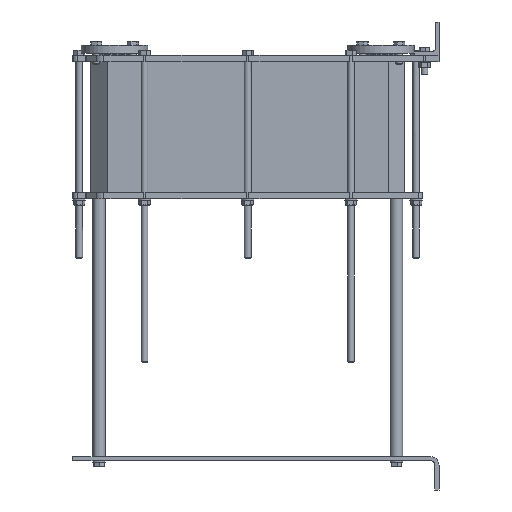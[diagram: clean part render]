
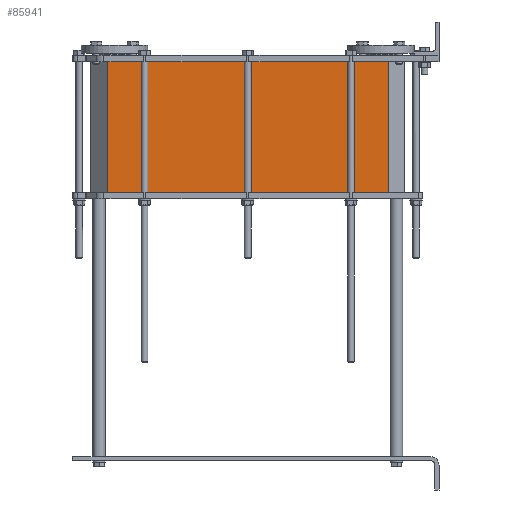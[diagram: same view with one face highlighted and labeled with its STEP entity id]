
A CAD part, left-side view. The second image highlights one B-rep face of the part: STEP entity #85941.
In plain terms, the highlighted planar face has unit normal (-1, 0, 0).
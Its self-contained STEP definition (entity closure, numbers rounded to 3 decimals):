
#626 = FACE_OUTER_BOUND ( 'NONE', #78978, .T. ) ;
#5755 = CARTESIAN_POINT ( 'NONE',  ( 22., 798., -95. ) ) ;
#9335 = PLANE ( 'NONE',  #28155 ) ;
#13561 = EDGE_CURVE ( 'NONE', #49392, #32783, #57604, .T. ) ;
#16719 = VERTEX_POINT ( 'NONE', #84140 ) ;
#20756 = VECTOR ( 'NONE', #23562, 1000. ) ;
#23562 = DIRECTION ( 'NONE',  ( 0., 1., 0. ) ) ;
#24333 = DIRECTION ( 'NONE',  ( -1., 0., 0. ) ) ;
#25340 = LINE ( 'NONE', #38849, #20756 ) ;
#28155 = AXIS2_PLACEMENT_3D ( 'NONE', #75684, #24333, #67755 ) ;
#30470 = EDGE_CURVE ( 'NONE', #16719, #32783, #25340, .T. ) ;
#32783 = VERTEX_POINT ( 'NONE', #34646 ) ;
#33932 = CARTESIAN_POINT ( 'NONE',  ( 22., 122., -95. ) ) ;
#34646 = CARTESIAN_POINT ( 'NONE',  ( 22., 798., -410. ) ) ;
#35514 = ORIENTED_EDGE ( 'NONE', *, *, #84596, .F. ) ;
#38162 = VECTOR ( 'NONE', #69297, 1000. ) ;
#38849 = CARTESIAN_POINT ( 'NONE',  ( 22., 798., -410. ) ) ;
#40055 = VECTOR ( 'NONE', #48603, 1000. ) ;
#47475 = ORIENTED_EDGE ( 'NONE', *, *, #30470, .F. ) ;
#48120 = VERTEX_POINT ( 'NONE', #68905 ) ;
#48603 = DIRECTION ( 'NONE',  ( 0., 0., -1. ) ) ;
#49392 = VERTEX_POINT ( 'NONE', #5755 ) ;
#52621 = ORIENTED_EDGE ( 'NONE', *, *, #13561, .T. ) ;
#56300 = DIRECTION ( 'NONE',  ( 0., -1., 0. ) ) ;
#57604 = LINE ( 'NONE', #69610, #38162 ) ;
#59400 = ORIENTED_EDGE ( 'NONE', *, *, #84608, .F. ) ;
#61805 = LINE ( 'NONE', #33932, #40055 ) ;
#64105 = VECTOR ( 'NONE', #56300, 1000. ) ;
#67755 = DIRECTION ( 'NONE',  ( 0., 1., 0. ) ) ;
#68905 = CARTESIAN_POINT ( 'NONE',  ( 22., 122., -95. ) ) ;
#69297 = DIRECTION ( 'NONE',  ( 0., 0., -1. ) ) ;
#69610 = CARTESIAN_POINT ( 'NONE',  ( 22., 798., -95. ) ) ;
#75684 = CARTESIAN_POINT ( 'NONE',  ( 22., 122., -95. ) ) ;
#77986 = CARTESIAN_POINT ( 'NONE',  ( 22., 798., -95. ) ) ;
#78947 = LINE ( 'NONE', #77986, #64105 ) ;
#78978 = EDGE_LOOP ( 'NONE', ( #35514, #52621, #47475, #59400 ) ) ;
#84140 = CARTESIAN_POINT ( 'NONE',  ( 22., 122., -410. ) ) ;
#84596 = EDGE_CURVE ( 'NONE', #49392, #48120, #78947, .T. ) ;
#84608 = EDGE_CURVE ( 'NONE', #48120, #16719, #61805, .T. ) ;
#85941 = ADVANCED_FACE ( 'NONE', ( #626 ), #9335, .T. ) ;
